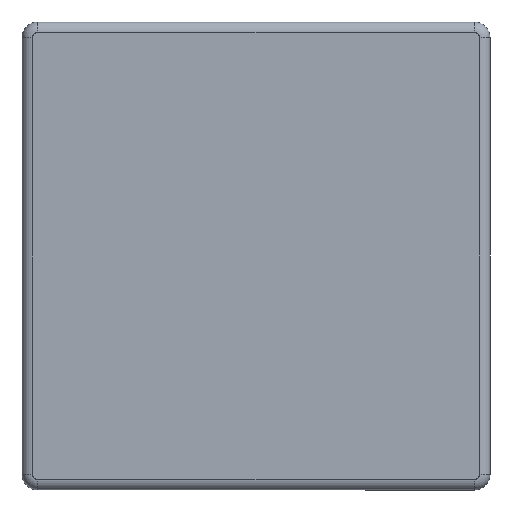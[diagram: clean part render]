
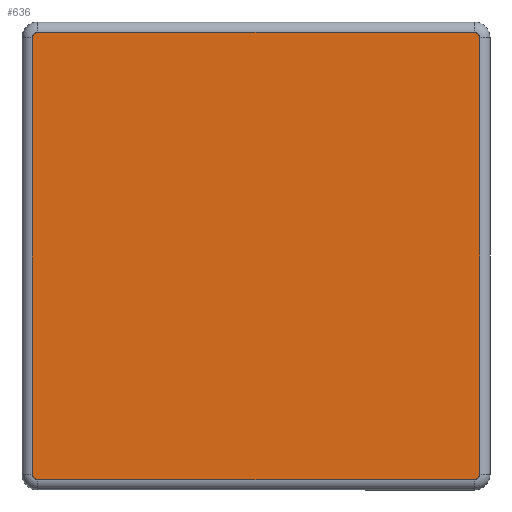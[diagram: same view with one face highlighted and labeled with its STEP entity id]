
A CAD part, front view. The second image highlights one B-rep face of the part: STEP entity #636.
In plain terms, the highlighted planar face has unit normal (0, -1, 0).
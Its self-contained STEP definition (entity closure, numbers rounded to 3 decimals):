
#80 = VERTEX_POINT ( 'NONE', #945 ) ;
#126 = VERTEX_POINT ( 'NONE', #2412 ) ;
#132 = AXIS2_PLACEMENT_3D ( 'NONE', #1852, #681, #2043 ) ;
#148 = CARTESIAN_POINT ( 'NONE',  ( -42., -4.3, 42. ) ) ;
#181 = CIRCLE ( 'NONE', #1588, 1. ) ;
#206 = ORIENTED_EDGE ( 'NONE', *, *, #1173, .T. ) ;
#229 = EDGE_CURVE ( 'NONE', #276, #538, #2125, .T. ) ;
#250 = ORIENTED_EDGE ( 'NONE', *, *, #493, .T. ) ;
#257 = LINE ( 'NONE', #2215, #2270 ) ;
#274 = DIRECTION ( 'NONE',  ( 1., 0., 0. ) ) ;
#276 = VERTEX_POINT ( 'NONE', #639 ) ;
#343 = DIRECTION ( 'NONE',  ( 0., 0., 1. ) ) ;
#423 = VERTEX_POINT ( 'NONE', #1755 ) ;
#493 = EDGE_CURVE ( 'NONE', #548, #80, #560, .T. ) ;
#538 = VERTEX_POINT ( 'NONE', #1529 ) ;
#548 = VERTEX_POINT ( 'NONE', #2478 ) ;
#551 = DIRECTION ( 'NONE',  ( 0., 1., 0. ) ) ;
#555 = DIRECTION ( 'NONE',  ( 0., -1., 0. ) ) ;
#560 = CIRCLE ( 'NONE', #2153, 1. ) ;
#636 = ADVANCED_FACE ( 'NONE', ( #1803 ), #1722, .F. ) ;
#639 = CARTESIAN_POINT ( 'NONE',  ( 42., -4.3, -43. ) ) ;
#681 = DIRECTION ( 'NONE',  ( 0., -1., 0. ) ) ;
#691 = EDGE_CURVE ( 'NONE', #126, #724, #181, .T. ) ;
#724 = VERTEX_POINT ( 'NONE', #1713 ) ;
#784 = ORIENTED_EDGE ( 'NONE', *, *, #691, .T. ) ;
#833 = DIRECTION ( 'NONE',  ( 0., 0., -1. ) ) ;
#919 = CARTESIAN_POINT ( 'NONE',  ( 42., -4.3, 42. ) ) ;
#945 = CARTESIAN_POINT ( 'NONE',  ( -43., -4.3, 42. ) ) ;
#946 = CARTESIAN_POINT ( 'NONE',  ( -43., -4.3, -42. ) ) ;
#970 = LINE ( 'NONE', #2065, #2438 ) ;
#1058 = LINE ( 'NONE', #1593, #1523 ) ;
#1071 = AXIS2_PLACEMENT_3D ( 'NONE', #1131, #551, #1916 ) ;
#1097 = DIRECTION ( 'NONE',  ( 0., 0., 1. ) ) ;
#1107 = DIRECTION ( 'NONE',  ( 0., 0., 1. ) ) ;
#1131 = CARTESIAN_POINT ( 'NONE',  ( 0., -4.3, 0. ) ) ;
#1173 = EDGE_CURVE ( 'NONE', #2086, #423, #1782, .T. ) ;
#1262 = ORIENTED_EDGE ( 'NONE', *, *, #1810, .T. ) ;
#1353 = ORIENTED_EDGE ( 'NONE', *, *, #1938, .T. ) ;
#1371 = ORIENTED_EDGE ( 'NONE', *, *, #229, .T. ) ;
#1421 = VECTOR ( 'NONE', #833, 1000. ) ;
#1469 = EDGE_CURVE ( 'NONE', #538, #126, #970, .T. ) ;
#1521 = DIRECTION ( 'NONE',  ( 0., -1., 0. ) ) ;
#1523 = VECTOR ( 'NONE', #1979, 1000. ) ;
#1529 = CARTESIAN_POINT ( 'NONE',  ( 43., -4.3, -42. ) ) ;
#1588 = AXIS2_PLACEMENT_3D ( 'NONE', #919, #2260, #1107 ) ;
#1593 = CARTESIAN_POINT ( 'NONE',  ( -42., -4.3, 43. ) ) ;
#1638 = ORIENTED_EDGE ( 'NONE', *, *, #1705, .T. ) ;
#1705 = EDGE_CURVE ( 'NONE', #80, #2086, #1954, .T. ) ;
#1713 = CARTESIAN_POINT ( 'NONE',  ( 42., -4.3, 43. ) ) ;
#1722 = PLANE ( 'NONE',  #1071 ) ;
#1725 = CARTESIAN_POINT ( 'NONE',  ( -42., -4.3, -42. ) ) ;
#1755 = CARTESIAN_POINT ( 'NONE',  ( -42., -4.3, -43. ) ) ;
#1782 = CIRCLE ( 'NONE', #2510, 1. ) ;
#1795 = ORIENTED_EDGE ( 'NONE', *, *, #1469, .T. ) ;
#1803 = FACE_OUTER_BOUND ( 'NONE', #2307, .T. ) ;
#1810 = EDGE_CURVE ( 'NONE', #423, #276, #257, .T. ) ;
#1852 = CARTESIAN_POINT ( 'NONE',  ( 42., -4.3, -42. ) ) ;
#1916 = DIRECTION ( 'NONE',  ( 0., 0., 1. ) ) ;
#1921 = DIRECTION ( 'NONE',  ( 0., 0., 1. ) ) ;
#1938 = EDGE_CURVE ( 'NONE', #724, #548, #1058, .T. ) ;
#1954 = LINE ( 'NONE', #2087, #1421 ) ;
#1979 = DIRECTION ( 'NONE',  ( -1., 0., 0. ) ) ;
#2043 = DIRECTION ( 'NONE',  ( 0., 0., 1. ) ) ;
#2065 = CARTESIAN_POINT ( 'NONE',  ( 43., -4.3, 42. ) ) ;
#2086 = VERTEX_POINT ( 'NONE', #946 ) ;
#2087 = CARTESIAN_POINT ( 'NONE',  ( -43., -4.3, -42. ) ) ;
#2125 = CIRCLE ( 'NONE', #132, 1. ) ;
#2153 = AXIS2_PLACEMENT_3D ( 'NONE', #148, #1521, #343 ) ;
#2215 = CARTESIAN_POINT ( 'NONE',  ( 42., -4.3, -43. ) ) ;
#2260 = DIRECTION ( 'NONE',  ( 0., -1., 0. ) ) ;
#2270 = VECTOR ( 'NONE', #274, 1000. ) ;
#2307 = EDGE_LOOP ( 'NONE', ( #1638, #206, #1262, #1371, #1795, #784, #1353, #250 ) ) ;
#2412 = CARTESIAN_POINT ( 'NONE',  ( 43., -4.3, 42. ) ) ;
#2438 = VECTOR ( 'NONE', #1097, 1000. ) ;
#2478 = CARTESIAN_POINT ( 'NONE',  ( -42., -4.3, 43. ) ) ;
#2510 = AXIS2_PLACEMENT_3D ( 'NONE', #1725, #555, #1921 ) ;
